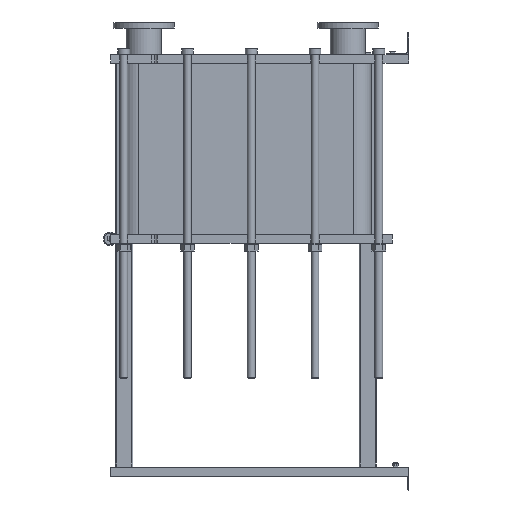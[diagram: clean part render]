
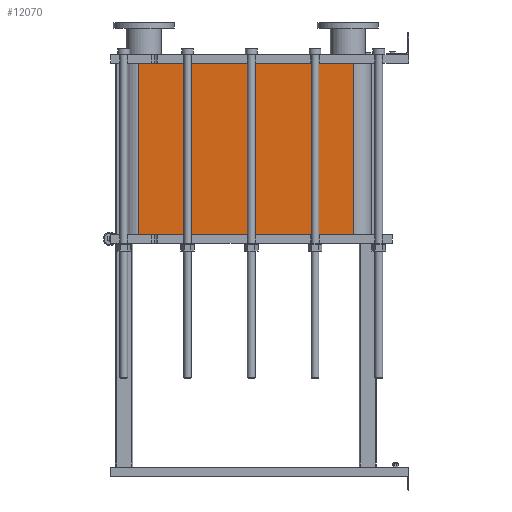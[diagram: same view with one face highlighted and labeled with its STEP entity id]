
A CAD part, left-side view. The second image highlights one B-rep face of the part: STEP entity #12070.
In plain terms, the highlighted planar face has unit normal (-1, 0, 0).
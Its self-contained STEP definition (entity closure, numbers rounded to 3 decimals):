
#1064=LINE('',#21140,#2164);
#1065=LINE('',#21144,#2165);
#1066=LINE('',#21146,#2166);
#1067=LINE('',#21147,#2167);
#2164=VECTOR('',#15790,10.);
#2165=VECTOR('',#15795,10.);
#2166=VECTOR('',#15796,10.);
#2167=VECTOR('',#15797,10.);
#3304=FACE_OUTER_BOUND('',#4091,.T.);
#4091=EDGE_LOOP('',(#9793,#9794,#9795,#9796));
#5677=VERTEX_POINT('',#21137);
#5678=VERTEX_POINT('',#21139);
#5679=VERTEX_POINT('',#21143);
#5680=VERTEX_POINT('',#21145);
#7118=EDGE_CURVE('',#5678,#5677,#1064,.T.);
#7120=EDGE_CURVE('',#5677,#5679,#1065,.T.);
#7121=EDGE_CURVE('',#5680,#5679,#1066,.T.);
#7122=EDGE_CURVE('',#5680,#5678,#1067,.T.);
#9793=ORIENTED_EDGE('',*,*,#7120,.T.);
#9794=ORIENTED_EDGE('',*,*,#7121,.F.);
#9795=ORIENTED_EDGE('',*,*,#7122,.T.);
#9796=ORIENTED_EDGE('',*,*,#7118,.T.);
#11441=PLANE('',#13191);
#12070=ADVANCED_FACE('',(#3304),#11441,.T.);
#13191=AXIS2_PLACEMENT_3D('',#21142,#15793,#15794);
#15790=DIRECTION('',(0.,0.,-1.));
#15793=DIRECTION('center_axis',(-1.,0.,0.));
#15794=DIRECTION('ref_axis',(0.,1.,0.));
#15795=DIRECTION('',(0.,-1.,0.));
#15796=DIRECTION('',(0.,0.,-1.));
#15797=DIRECTION('',(0.,1.,0.));
#21137=CARTESIAN_POINT('',(-248.152,1243.818,-790.05));
#21139=CARTESIAN_POINT('',(-248.152,1243.818,0.));
#21140=CARTESIAN_POINT('',(-248.152,1243.818,0.));
#21142=CARTESIAN_POINT('Origin',(-248.152,251.818,0.));
#21143=CARTESIAN_POINT('',(-248.152,251.818,-790.05));
#21144=CARTESIAN_POINT('',(-248.152,499.818,-790.05));
#21145=CARTESIAN_POINT('',(-248.152,251.818,0.));
#21146=CARTESIAN_POINT('',(-248.152,251.818,0.));
#21147=CARTESIAN_POINT('',(-248.152,251.818,0.));
